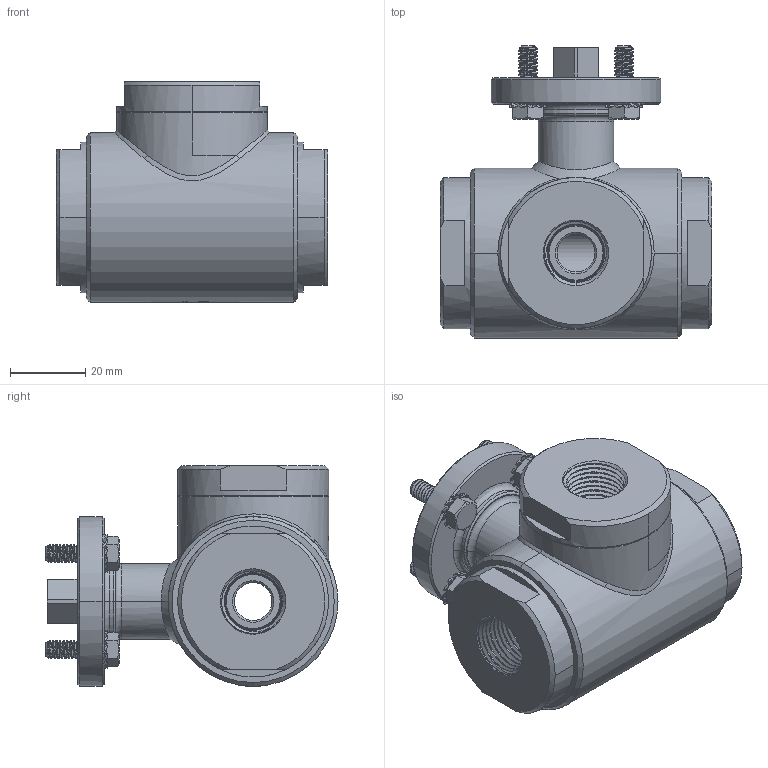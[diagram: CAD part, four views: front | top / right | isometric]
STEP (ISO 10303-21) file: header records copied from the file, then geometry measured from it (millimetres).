
FILE_DESCRIPTION((''),'2;1');
FILE_NAME('30300460810_SW0001','2025-01-08T13:58:31',('tecnico2'),('CDM Tecnoconsulting'),'CREO PARAMETRIC BY PTC INC, 2024063','CREO PARAMETRIC BY PTC INC, 2024063','');
FILE_SCHEMA(('CONFIG_CONTROL_DESIGN','SHAPE_APPEARANCE_LAYERS_GROUPS'));
Products named in the file (1): 30300460810_SW0001
Bounding box: 72 x 77.4 x 58.5 mm (x, y, z)
Volume: 120082.2 mm3; surface area: 42418.1 mm2
Topology: 1 solids, 2 shells, 1525 faces, 4383 edges, 2807 vertices
Faces by surface type: plane 536, cylinder 391, cone 277, bspline 124, extrusion 111, torus 84, sphere 2
Entity records: 123322 total; most frequent: CARTESIAN_POINT 70136, ORIENTED_EDGE 8742, DIRECTION 6506, PRESENTATION_STYLE_ASSIGNMENT 4777, STYLED_ITEM 4428, CURVE_STYLE 4427, EDGE_CURVE 4371, VERTEX_POINT 2807
